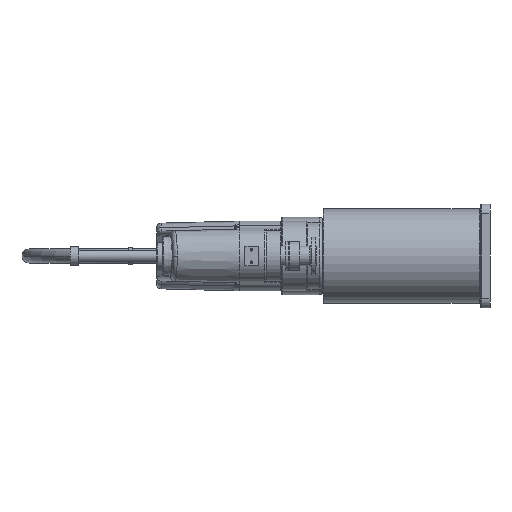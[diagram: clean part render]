
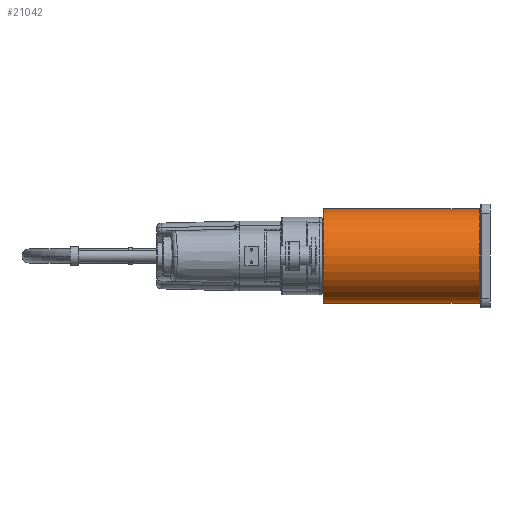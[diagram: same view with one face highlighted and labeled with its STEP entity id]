
A CAD part, left-side view. The second image highlights one B-rep face of the part: STEP entity #21042.
In plain terms, the highlighted cylindrical face has radius 100 mm (diameter 200 mm), a partial arc.
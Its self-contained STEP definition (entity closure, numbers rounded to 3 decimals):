
#181 = VERTEX_POINT ( 'NONE', #48051 ) ;
#574 = ORIENTED_EDGE ( 'NONE', *, *, #16426, .F. ) ;
#2806 = CYLINDRICAL_SURFACE ( 'NONE', #25041, 100. ) ;
#3043 = DIRECTION ( 'NONE',  ( 0., 0., 1. ) ) ;
#4438 = LINE ( 'NONE', #53130, #41907 ) ;
#5184 = CARTESIAN_POINT ( 'NONE',  ( 0., 353., 100. ) ) ;
#8928 = DIRECTION ( 'NONE',  ( 0., -1., 0. ) ) ;
#11417 = VERTEX_POINT ( 'NONE', #22597 ) ;
#13958 = EDGE_CURVE ( 'NONE', #11417, #36343, #49847, .T. ) ;
#14776 = ORIENTED_EDGE ( 'NONE', *, *, #23001, .T. ) ;
#15852 = DIRECTION ( 'NONE',  ( 0., 1., 0. ) ) ;
#16250 = VECTOR ( 'NONE', #25414, 1000. ) ;
#16426 = EDGE_CURVE ( 'NONE', #36343, #40071, #4438, .T. ) ;
#16573 = ORIENTED_EDGE ( 'NONE', *, *, #21867, .T. ) ;
#18359 = DIRECTION ( 'NONE',  ( 0., 1., 0. ) ) ;
#21042 = ADVANCED_FACE ( 'NONE', ( #27353 ), #2806, .T. ) ;
#21867 = EDGE_CURVE ( 'NONE', #181, #40071, #27861, .T. ) ;
#22597 = CARTESIAN_POINT ( 'NONE',  ( 0., 353., -100. ) ) ;
#22718 = CARTESIAN_POINT ( 'NONE',  ( 0., 23., 100. ) ) ;
#23001 = EDGE_CURVE ( 'NONE', #11417, #181, #44613, .T. ) ;
#25041 = AXIS2_PLACEMENT_3D ( 'NONE', #33653, #8928, #37782 ) ;
#25414 = DIRECTION ( 'NONE',  ( 0., -1., 0. ) ) ;
#26773 = ORIENTED_EDGE ( 'NONE', *, *, #13958, .F. ) ;
#27353 = FACE_OUTER_BOUND ( 'NONE', #51647, .T. ) ;
#27861 = CIRCLE ( 'NONE', #36514, 100. ) ;
#31371 = AXIS2_PLACEMENT_3D ( 'NONE', #38914, #18359, #43950 ) ;
#33653 = CARTESIAN_POINT ( 'NONE',  ( 0., 332., 0. ) ) ;
#36343 = VERTEX_POINT ( 'NONE', #5184 ) ;
#36514 = AXIS2_PLACEMENT_3D ( 'NONE', #44348, #15852, #3043 ) ;
#37782 = DIRECTION ( 'NONE',  ( 0., 0., -1. ) ) ;
#38914 = CARTESIAN_POINT ( 'NONE',  ( 0., 353., 0. ) ) ;
#40071 = VERTEX_POINT ( 'NONE', #22718 ) ;
#41907 = VECTOR ( 'NONE', #49108, 1000. ) ;
#42367 = CARTESIAN_POINT ( 'NONE',  ( 0., 332., -100. ) ) ;
#43950 = DIRECTION ( 'NONE',  ( 0., 0., 1. ) ) ;
#44348 = CARTESIAN_POINT ( 'NONE',  ( 0., 23., 0. ) ) ;
#44613 = LINE ( 'NONE', #42367, #16250 ) ;
#48051 = CARTESIAN_POINT ( 'NONE',  ( 0., 23., -100. ) ) ;
#49108 = DIRECTION ( 'NONE',  ( 0., -1., 0. ) ) ;
#49847 = CIRCLE ( 'NONE', #31371, 100. ) ;
#51647 = EDGE_LOOP ( 'NONE', ( #574, #26773, #14776, #16573 ) ) ;
#53130 = CARTESIAN_POINT ( 'NONE',  ( 0., 332., 100. ) ) ;
